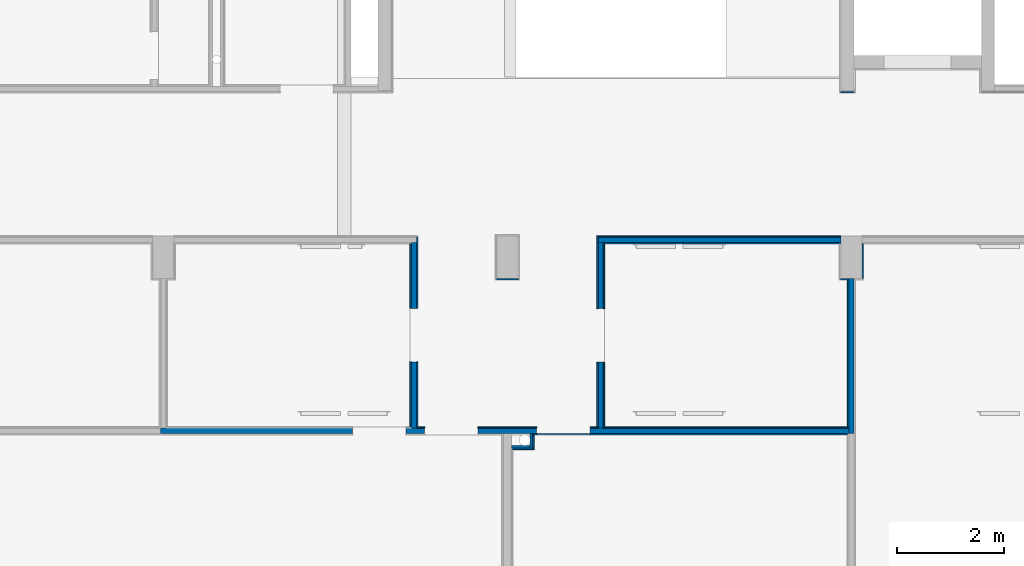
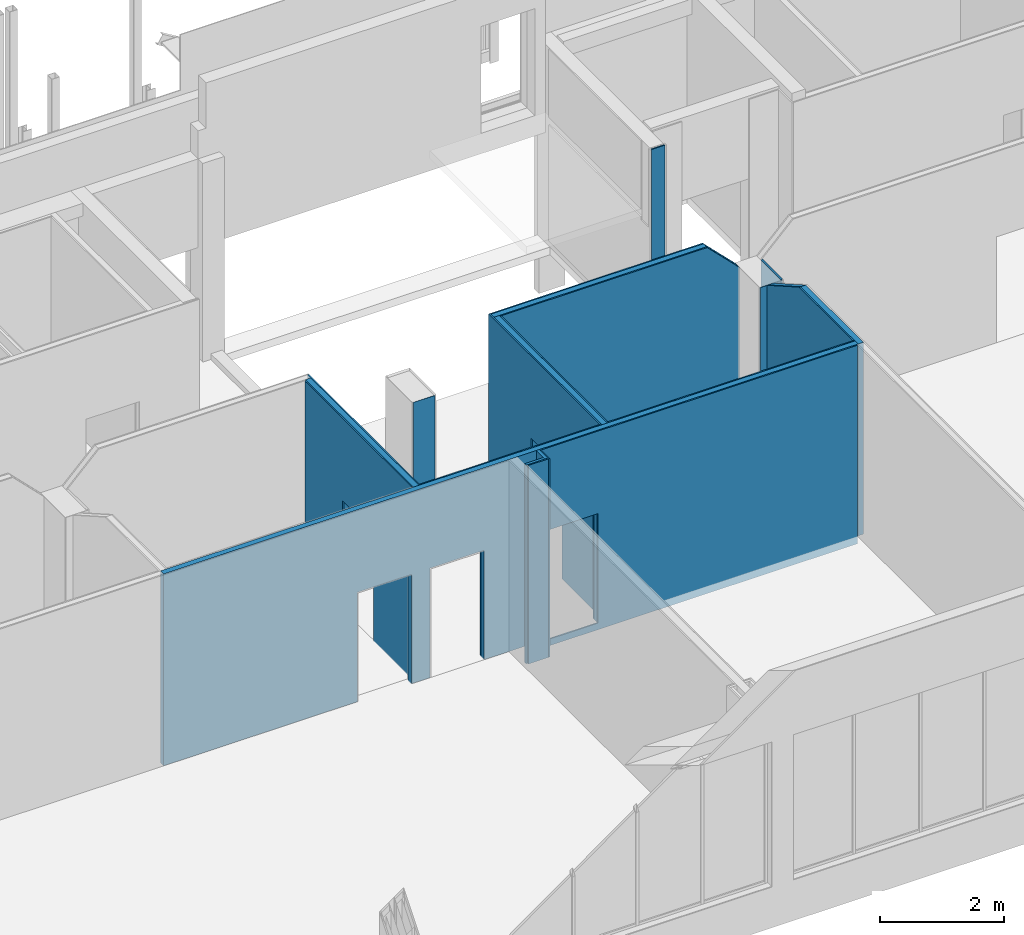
# One storey, part 21 of 29: 23 walls, 12 openings.
"""IFC2X3 building model written with IfcOpenShell, lengths in centimetres."""

from ifc_helpers import new_model, entity, si_unit, converted_unit, derived_unit, direction, frame, frame_2d, origin, origin_2d_with_axis, place, context, subcontext, project, spatial, polyline, rectangle, extrude, clip, bounded_halfspace, material, layer, layer_set, layer_usage, type_object, element, save


model = new_model("IFC2X3")

# Units and contexts
model_context = context("Model", 3, precision=0.001, world=origin(), true_north=direction((6.12303176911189e-17, 1.0)))
body_context = subcontext(model_context, "Body", "Model", "MODEL_VIEW")
ifc_project = project(units=[si_unit("LENGTHUNIT", "METRE", prefix="CENTI"), si_unit("AREAUNIT", "SQUARE_METRE"), si_unit("VOLUMEUNIT", "CUBIC_METRE"), converted_unit("PLANEANGLEUNIT", "DEGREE", entity("IfcRatioMeasure", 0.0174532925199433), si_unit("PLANEANGLEUNIT", "RADIAN"), dimensions=[0, 0, 0, 0, 0, 0, 0]), si_unit("MASSUNIT", "GRAM", prefix="KILO"), derived_unit("MASSDENSITYUNIT", [(si_unit("MASSUNIT", "GRAM", prefix="KILO"), 1), (si_unit("LENGTHUNIT", "METRE"), -3)]), derived_unit("MOMENTOFINERTIAUNIT", [(si_unit("LENGTHUNIT", "METRE"), 4)]), si_unit("TIMEUNIT", "SECOND"), si_unit("FREQUENCYUNIT", "HERTZ"), si_unit("THERMODYNAMICTEMPERATUREUNIT", "DEGREE_CELSIUS"), derived_unit("THERMALTRANSMITTANCEUNIT", [(si_unit("MASSUNIT", "GRAM", prefix="KILO"), 1), (si_unit("THERMODYNAMICTEMPERATUREUNIT", "KELVIN"), -1), (si_unit("TIMEUNIT", "SECOND"), -3)]), derived_unit("VOLUMETRICFLOWRATEUNIT", [(si_unit("LENGTHUNIT", "METRE"), 3), (si_unit("TIMEUNIT", "SECOND"), -1)]), si_unit("ELECTRICCURRENTUNIT", "AMPERE"), si_unit("ELECTRICVOLTAGEUNIT", "VOLT"), si_unit("POWERUNIT", "WATT"), si_unit("FORCEUNIT", "NEWTON", prefix="KILO"), si_unit("ILLUMINANCEUNIT", "LUX"), si_unit("LUMINOUSFLUXUNIT", "LUMEN"), si_unit("LUMINOUSINTENSITYUNIT", "CANDELA"), derived_unit("USERDEFINED", [(si_unit("MASSUNIT", "GRAM", prefix="KILO"), -1), (si_unit("LENGTHUNIT", "METRE"), -2), (si_unit("TIMEUNIT", "SECOND"), 3), (si_unit("LUMINOUSFLUXUNIT", "LUMEN"), 1)]), derived_unit("LINEARVELOCITYUNIT", [(si_unit("LENGTHUNIT", "METRE"), 1), (si_unit("TIMEUNIT", "SECOND"), -1)]), si_unit("PRESSUREUNIT", "PASCAL"), derived_unit("USERDEFINED", [(si_unit("LENGTHUNIT", "METRE"), -2), (si_unit("MASSUNIT", "GRAM", prefix="KILO"), 1), (si_unit("TIMEUNIT", "SECOND"), -2)]), derived_unit("LINEARFORCEUNIT", [(si_unit("MASSUNIT", "GRAM", prefix="KILO"), 1), (si_unit("LENGTHUNIT", "METRE"), 1), (si_unit("TIMEUNIT", "SECOND"), -2), (si_unit("LENGTHUNIT", "METRE"), -1)]), derived_unit("PLANARFORCEUNIT", [(si_unit("MASSUNIT", "GRAM", prefix="KILO"), 1), (si_unit("LENGTHUNIT", "METRE"), 1), (si_unit("TIMEUNIT", "SECOND"), -2), (si_unit("LENGTHUNIT", "METRE"), -2)])], contexts=[model_context])

# Site, building, storey
site_placement = place(None, origin())
site = spatial("IfcSite", under=ifc_project, at=site_placement, Name="Default", CompositionType="ELEMENT")
building_placement = place(site_placement, origin())
building = spatial("IfcBuilding", under=site, at=building_placement, CompositionType="ELEMENT")
storey_placement = place(building_placement, frame((0.0, 0.0, 545.0)))
storey = spatial("IfcBuildingStorey", under=building, at=storey_placement, Name="Poziom 1K +5,45", CompositionType="ELEMENT", Elevation=544.999999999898)

# Wall, opening
ifc_material_1 = material(Name="Wełna skalna")
ifc_layer_1 = layer(ifc_material_1, 10.0)
ifc_layer_set_1 = layer_set([ifc_layer_1], Name="Ściana podstawowa:Ściana GK rdzeń gr. 10cm")
ifc_layer_usage_1 = layer_usage(ifc_layer_set_1, "AXIS2", "POSITIVE", -5.0)
wall_type_1 = type_object("IfcWallType", Name="Ściana podstawowa:Ściana GK rdzeń gr. 10cm", PredefinedType="STANDARD", material=ifc_layer_set_1)
wall_1_placement = place(storey_placement, frame((-1154.26512601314, 1457.62745216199, 13.0), z_axis=(0.0, 0.0, 1.0), x_axis=(0.0, -1.0, 0.0)))
wall_1 = element("IfcWallStandardCase", 1, at=wall_1_placement, inside=storey, type_object=wall_type_1, material=ifc_layer_usage_1, Name="Ściana podstawowa:Ściana GK rdzeń gr. 10cm", ObjectType="Ściana podstawowa:Ściana GK rdzeń gr. 10cm", context=body_context, shape_type="SweptSolid", body=[
    extrude(rectangle(XDim=347.99999996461, YDim=9.99999999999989, at=frame_2d((173.999999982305, 2.66453525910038e-15), x_axis=(-1.0, 0.0))), origin(), (0.0, 0.0, 1.0), 377.000000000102),
])
opening_1_placement = place(wall_1_placement, origin())
element("IfcOpeningElement", 2, at=opening_1_placement, cuts=wall_1, Name="Ściana podstawowa:Ściana GK rdzeń gr. 10cm", ObjectType="Opening", context=body_context, shape_type="SweptSolid", body=[
    extrude(rectangle(XDim=215.0, YDim=100.0, at=frame_2d((0.0, 1.10134124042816e-13), x_axis=(1.0, 0.0))), frame((173.500000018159, -147.4, 107.5), z_axis=(0.0, 1.0, 0.0), x_axis=(0.0, 0.0, -1.0)), (0.0, 0.0, 1.0), 304.8),
])

# Wall, openings
ifc_layer_usage_2 = layer_usage(ifc_layer_set_1, "AXIS2", "NEGATIVE", 5.0)
wall_2_placement = place(storey_placement, frame((-1629.26512060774, 1104.62745219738, 13.0)))
wall_2 = element("IfcWallStandardCase", 3, at=wall_2_placement, inside=storey, type_object=wall_type_1, material=ifc_layer_usage_2, Name="Ściana podstawowa:Ściana GK rdzeń gr. 10cm", ObjectType="Ściana podstawowa:Ściana GK rdzeń gr. 10cm", context=body_context, shape_type="SweptSolid", body=[
    extrude(rectangle(XDim=1289.99999999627, YDim=9.99999999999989, at=frame_2d((644.999999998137, 0.0), x_axis=(-1.0, 0.0))), origin(), (0.0, 0.0, 1.0), 377.000000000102),
])
opening_2_placement = place(wall_2_placement, origin())
element("IfcOpeningElement", 4, at=opening_2_placement, cuts=wall_2, Name="Ściana podstawowa:Ściana GK rdzeń gr. 10cm", ObjectType="Opening", context=body_context, shape_type="SweptSolid", body=[
    extrude(rectangle(XDim=215.0, YDim=100.0, at=origin_2d_with_axis()), frame((755.000008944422, -147.4, 107.5), z_axis=(0.0, 1.0, 0.0), x_axis=(0.0, 0.0, -1.0)), (0.0, 0.0, 1.0), 304.8),
])
opening_3_placement = place(wall_2_placement, origin())
element("IfcOpeningElement", 5, at=opening_3_placement, cuts=wall_2, Name="Ściana podstawowa:Ściana GK rdzeń gr. 10cm", ObjectType="Opening", context=body_context, shape_type="SweptSolid", body=[
    extrude(rectangle(XDim=215.0, YDim=100.0, at=frame_2d((0.0, -1.06581410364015e-13), x_axis=(1.0, 0.0))), frame((545.000008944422, -147.4, 107.5), z_axis=(0.0, 1.0, 0.0), x_axis=(0.0, 0.0, -1.0)), (0.0, 0.0, 1.0), 304.8),
])
opening_4_placement = place(wall_2_placement, origin())
element("IfcOpeningElement", 6, at=opening_4_placement, cuts=wall_2, Name="Ściana podstawowa:Ściana GK rdzeń gr. 10cm", ObjectType="Opening", context=body_context, shape_type="SweptSolid", body=[
    extrude(rectangle(XDim=215.0, YDim=100.0, at=frame_2d((0.0, -1.06581410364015e-13), x_axis=(1.0, 0.0))), frame((409.999994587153, -147.4, 107.5), z_axis=(0.0, 1.0, 0.0), x_axis=(0.0, 0.0, -1.0)), (0.0, 0.0, 1.0), 304.8),
])

# Walls
ifc_layer_usage_3 = layer_usage(ifc_layer_set_1, "AXIS2", "NEGATIVE", 5.0)
wall_3_placement = place(storey_placement, frame((-334.26512061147, 1099.62745219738, 13.0), z_axis=(0.0, 0.0, 1.0), x_axis=(0.0, 1.0, 0.0)))
element("IfcWallStandardCase", 7, at=wall_3_placement, inside=storey, type_object=wall_type_1, material=ifc_layer_usage_3, Name="Ściana podstawowa:Ściana GK rdzeń gr. 10cm", ObjectType="Ściana podstawowa:Ściana GK rdzeń gr. 10cm", context=body_context, shape_type="Clipping", body=[
    clip(extrude(rectangle(XDim=290.499999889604, YDim=10.0, at=frame_2d((145.249999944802, 8.43769498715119e-15), x_axis=(-1.0, 0.0))), origin(), (0.0, 0.0, 1.0), 377.000000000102), bounded_halfspace(frame((185.499999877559, -5.0, 377.0), z_axis=(-0.496138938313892, 0.0, -0.868243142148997), x_axis=(0.0, -1.0, 0.0)), True, frame((185.499999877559, -5.0, 377.0), z_axis=(-0.496138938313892, 0.0, -0.868243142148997), x_axis=(0.0, -1.0, 0.0)), polyline([(0.0, 0.0), (-10.0, 0.0), (-10.0, -120.933866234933), (0.0, -120.933866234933), (0.0, 0.0)]))),
])
ifc_layer_usage_4 = layer_usage(ifc_layer_set_1, "AXIS2", "POSITIVE", -5.0)
wall_4_placement = place(storey_placement, frame((-354.265109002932, 1462.62745216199, 13.0), z_axis=(0.0, 0.0, 1.0), x_axis=(-1.0, 0.0, 0.0)))
element("IfcWallStandardCase", 8, at=wall_4_placement, inside=storey, type_object=wall_type_1, material=ifc_layer_usage_4, Name="Ściana podstawowa:Ściana GK rdzeń gr. 10cm", ObjectType="Ściana podstawowa:Ściana GK rdzeń gr. 10cm", context=body_context, shape_type="Clipping", body=[
    clip(extrude(rectangle(XDim=455.000006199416, YDim=9.99999999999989, at=frame_2d((227.500003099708, 0.0), x_axis=(-1.0, 0.0))), origin(), (0.0, 0.0, 1.0), 377.000000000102), bounded_halfspace(frame((0.0, -5.0, 317.0), z_axis=(0.707106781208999, 0.0, -0.707106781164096), x_axis=(0.0, 1.0, 0.0)), True, frame((0.0, -5.0, 317.0), z_axis=(0.707106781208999, 0.0, -0.707106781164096), x_axis=(0.0, 1.0, 0.0)), polyline([(0.0, 0.0), (10.0, 0.0), (10.0, 84.8528137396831), (0.0, 84.8528137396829), (0.0, 0.0)]))),
])

# Wall, opening
ifc_layer_usage_5 = layer_usage(ifc_layer_set_1, "AXIS2", "NEGATIVE", 5.0)
wall_5_placement = place(storey_placement, frame((-804.265115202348, 1457.62745216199, 13.0), z_axis=(0.0, 0.0, 1.0), x_axis=(0.0, -1.0, 0.0)))
wall_5 = element("IfcWallStandardCase", 9, at=wall_5_placement, inside=storey, type_object=wall_type_1, material=ifc_layer_usage_5, Name="Ściana podstawowa:Ściana GK rdzeń gr. 10cm", ObjectType="Ściana podstawowa:Ściana GK rdzeń gr. 10cm", context=body_context, shape_type="SweptSolid", body=[
    extrude(rectangle(XDim=347.999999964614, YDim=9.99999999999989, at=frame_2d((173.999999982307, 0.0), x_axis=(-1.0, 0.0))), origin(), (0.0, 0.0, 1.0), 377.000000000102),
])
opening_5_placement = place(wall_5_placement, origin())
element("IfcOpeningElement", 10, at=opening_5_placement, cuts=wall_5, Name="Ściana podstawowa:Ściana GK rdzeń gr. 10cm", ObjectType="Opening", context=body_context, shape_type="SweptSolid", body=[
    extrude(rectangle(XDim=215.0, YDim=100.0, at=frame_2d((1.10134124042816e-13, 0.0), x_axis=(0.0, 1.0))), frame((174.0, -157.4, 107.5), z_axis=(0.0, 1.0, 0.0), x_axis=(1.0, 0.0, 0.0)), (0.0, 0.0, 1.0), 304.8),
])

# Walls
ifc_layer_2 = layer(ifc_material_1, 5.0)
ifc_layer_set_2 = layer_set([ifc_layer_2], Name="Ściana podstawowa:Ściana GK rdzeń gr. 5cm")
ifc_layer_usage_6 = layer_usage(ifc_layer_set_2, "AXIS2", "NEGATIVE", 2.5)
wall_type_2 = type_object("IfcWallType", Name="Ściana podstawowa:Ściana GK rdzeń gr. 5cm", PredefinedType="STANDARD", material=ifc_layer_set_2)
wall_6_placement = place(storey_placement, frame((-971.765108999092, 1074.62745218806, 0.0)))
element("IfcWallStandardCase", 11, at=wall_6_placement, inside=storey, type_object=wall_type_2, material=ifc_layer_usage_6, Name="Ściana podstawowa:Ściana GK rdzeń gr. 5cm", ObjectType="Ściana podstawowa:Ściana GK rdzeń gr. 5cm", context=body_context, shape_type="SweptSolid", body=[
    extrude(rectangle(XDim=34.9999938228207, YDim=5.00000000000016, at=frame_2d((17.4999969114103, 0.0), x_axis=(-1.0, 0.0))), origin(), (0.0, 0.0, 1.0), 390.000000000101),
])
ifc_layer_usage_7 = layer_usage(ifc_layer_set_2, "AXIS2", "NEGATIVE", 2.5)
wall_7_placement = place(storey_placement, frame((-934.265115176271, 1072.12745218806, 0.0), z_axis=(0.0, 0.0, 1.0), x_axis=(0.0, 1.0, 0.0)))
element("IfcWallStandardCase", 12, at=wall_7_placement, inside=storey, type_object=wall_type_2, material=ifc_layer_usage_7, Name="Ściana podstawowa:Ściana GK rdzeń gr. 5cm", ObjectType="Ściana podstawowa:Ściana GK rdzeń gr. 5cm", context=body_context, shape_type="SweptSolid", body=[
    extrude(rectangle(XDim=27.5000000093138, YDim=4.99999999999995, at=frame_2d((13.7500000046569, 0.0), x_axis=(-1.0, 0.0))), origin(), (0.0, 0.0, 1.0), 390.000000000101),
])

# Wall, opening
ifc_material_2 = material(Name="Tynk gipsowy")
ifc_layer_3 = layer(ifc_material_2, 2.5)
ifc_layer_set_3 = layer_set([ifc_layer_3], Name="Ściana podstawowa:Ściana GK wykonczenie gr. 2,5cm")
ifc_layer_usage_8 = layer_usage(ifc_layer_set_3, "AXIS2", "NEGATIVE", 1.25)
wall_type_3 = type_object("IfcWallType", Name="Ściana podstawowa:Ściana GK wykonczenie gr. 2,5cm", PredefinedType="STANDARD", material=ifc_layer_set_3)
wall_8_placement = place(storey_placement, frame((-1148.01512601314, 1467.62745216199, 13.0), z_axis=(0.0, 0.0, 1.0), x_axis=(0.0, -1.0, 0.0)))
wall_8 = element("IfcWallStandardCase", 13, at=wall_8_placement, inside=storey, type_object=wall_type_3, material=ifc_layer_usage_8, Name="Ściana podstawowa:Ściana GK wykonczenie gr. 2,5cm", ObjectType="Ściana podstawowa:Ściana GK wykonczenie gr. 2,5cm", context=body_context, shape_type="SweptSolid", body=[
    extrude(rectangle(XDim=357.99999996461, YDim=2.49999999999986, at=frame_2d((178.999999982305, 0.0), x_axis=(-1.0, 0.0))), origin(), (0.0, 0.0, 1.0), 377.000000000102),
])
opening_6_placement = place(wall_8_placement, origin())
element("IfcOpeningElement", 14, at=opening_6_placement, cuts=wall_8, Name="Ściana podstawowa:Ściana GK wykonczenie gr. 2,5cm", ObjectType="Opening", context=body_context, shape_type="SweptSolid", body=[
    extrude(rectangle(XDim=215.0, YDim=100.0, at=frame_2d((0.0, 1.10134124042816e-13), x_axis=(1.0, 0.0))), frame((183.500000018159, -153.650000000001, 107.5), z_axis=(0.0, 1.0, 0.0), x_axis=(0.0, 0.0, -1.0)), (0.0, 0.0, 1.0), 304.8),
])

# Wall, openings
ifc_layer_usage_9 = layer_usage(ifc_layer_set_3, "AXIS2", "NEGATIVE", 1.25)
wall_9_placement = place(storey_placement, frame((-1146.76512601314, 1110.87745211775, 13.0)))
wall_9 = element("IfcWallStandardCase", 15, at=wall_9_placement, inside=storey, type_object=wall_type_3, material=ifc_layer_usage_9, Name="Ściana podstawowa:Ściana GK wykonczenie gr. 2,5cm", ObjectType="Ściana podstawowa:Ściana GK wykonczenie gr. 2,5cm", context=body_context, shape_type="SweptSolid", body=[
    extrude(rectangle(XDim=337.500010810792, YDim=2.49999999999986, at=frame_2d((168.750005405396, 0.0), x_axis=(-1.0, 0.0))), origin(), (0.0, 0.0, 1.0), 377.000000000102),
])
opening_7_placement = place(wall_9_placement, origin())
element("IfcOpeningElement", 16, at=opening_7_placement, cuts=wall_9, Name="Ściana podstawowa:Ściana GK wykonczenie gr. 2,5cm", ObjectType="Opening", context=body_context, shape_type="SweptSolid", body=[
    extrude(rectangle(XDim=215.0, YDim=100.0, at=origin_2d_with_axis()), frame((272.500014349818, -153.649999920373, 107.5), z_axis=(0.0, 1.0, 0.0), x_axis=(0.0, 0.0, -1.0)), (0.0, 0.0, 1.0), 304.8),
])
opening_8_placement = place(wall_9_placement, origin())
element("IfcOpeningElement", 17, at=opening_8_placement, cuts=wall_9, Name="Ściana podstawowa:Ściana GK wykonczenie gr. 2,5cm", ObjectType="Opening", context=body_context, shape_type="SweptSolid", body=[
    extrude(rectangle(XDim=215.0, YDim=100.0, at=frame_2d((0.0, -1.06581410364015e-13), x_axis=(1.0, 0.0))), frame((62.5000143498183, -153.649999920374, 107.5), z_axis=(0.0, 1.0, 0.0), x_axis=(0.0, 0.0, -1.0)), (0.0, 0.0, 1.0), 304.8),
])

# Wall, opening
ifc_layer_usage_10 = layer_usage(ifc_layer_set_3, "AXIS2", "NEGATIVE", 1.25)
wall_10_placement = place(storey_placement, frame((-810.515115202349, 1112.12745211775, 13.0), z_axis=(0.0, 0.0, 1.0), x_axis=(0.0, 1.0, 0.0)))
wall_10 = element("IfcWallStandardCase", 18, at=wall_10_placement, inside=storey, type_object=wall_type_3, material=ifc_layer_usage_10, Name="Ściana podstawowa:Ściana GK wykonczenie gr. 2,5cm", ObjectType="Ściana podstawowa:Ściana GK wykonczenie gr. 2,5cm", context=body_context, shape_type="SweptSolid", body=[
    extrude(rectangle(XDim=358.000013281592, YDim=2.50000000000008, at=frame_2d((179.000006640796, 0.0), x_axis=(-1.0, 0.0))), origin(), (0.0, 0.0, 1.0), 377.000000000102),
])
opening_9_placement = place(wall_10_placement, origin())
element("IfcOpeningElement", 19, at=opening_9_placement, cuts=wall_10, Name="Ściana podstawowa:Ściana GK wykonczenie gr. 2,5cm", ObjectType="Opening", context=body_context, shape_type="SweptSolid", body=[
    extrude(rectangle(XDim=215.0, YDim=100.0, at=frame_2d((0.0, -1.10134124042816e-13), x_axis=(1.0, 0.0))), frame((171.500000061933, -153.65, 107.5), z_axis=(0.0, 1.0, 0.0), x_axis=(0.0, 0.0, -1.0)), (0.0, 0.0, 1.0), 304.8),
])

# Wall
ifc_layer_usage_11 = layer_usage(ifc_layer_set_3, "AXIS2", "NEGATIVE", 1.25)
wall_11_placement = place(storey_placement, frame((-809.265115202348, 1468.87746539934, 13.0)))
element("IfcWallStandardCase", 20, at=wall_11_placement, inside=storey, type_object=wall_type_3, material=ifc_layer_usage_11, Name="Ściana podstawowa:Ściana GK wykonczenie gr. 2,5cm", ObjectType="Ściana podstawowa:Ściana GK wykonczenie gr. 2,5cm", context=body_context, shape_type="Clipping", body=[
    clip(extrude(rectangle(XDim=455.000003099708, YDim=2.49999999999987, at=frame_2d((227.500001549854, 1.33226762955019e-15), x_axis=(-1.0, 0.0))), origin(), (0.0, 0.0, 1.0), 377.000000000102), bounded_halfspace(frame((395.000006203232, -1.25000000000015, 377.0), z_axis=(-0.707106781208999, 0.0, -0.707106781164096), x_axis=(0.0, -1.0, 0.0)), True, frame((395.000006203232, -1.25000000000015, 377.0), z_axis=(-0.707106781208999, 0.0, -0.707106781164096), x_axis=(0.0, -1.0, 0.0)), polyline([(0.0, 0.0), (-2.50000000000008, 0.0), (-2.49999999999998, -84.8528049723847), (0.0, -84.8528093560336), (0.0, 0.0)]))),
])

# Wall, opening
ifc_layer_usage_12 = layer_usage(ifc_layer_set_3, "AXIS2", "NEGATIVE", 1.25)
wall_12_placement = place(storey_placement, frame((-1160.51512601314, 1455.12745216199, 13.0), z_axis=(0.0, 0.0, 1.0), x_axis=(0.0, -1.0, 0.0)))
wall_12 = element("IfcWallStandardCase", 21, at=wall_12_placement, inside=storey, type_object=wall_type_3, material=ifc_layer_usage_12, Name="Ściana podstawowa:Ściana GK wykonczenie gr. 2,5cm", ObjectType="Ściana podstawowa:Ściana GK wykonczenie gr. 2,5cm", context=body_context, shape_type="SweptSolid", body=[
    extrude(rectangle(XDim=342.99999996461, YDim=2.49999999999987, at=frame_2d((171.499999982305, -4.55191440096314e-15), x_axis=(-1.0, 0.0))), origin(), (0.0, 0.0, 1.0), 377.000000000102),
])
opening_10_placement = place(wall_12_placement, origin())
element("IfcOpeningElement", 22, at=opening_10_placement, cuts=wall_12, Name="Ściana podstawowa:Ściana GK wykonczenie gr. 2,5cm", ObjectType="Opening", context=body_context, shape_type="SweptSolid", body=[
    extrude(rectangle(XDim=215.0, YDim=100.0, at=frame_2d((0.0, 1.10134124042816e-13), x_axis=(1.0, 0.0))), frame((171.0, -141.15, 107.5), z_axis=(0.0, 1.0, 0.0), x_axis=(0.0, 0.0, -1.0)), (0.0, 0.0, 1.0), 304.8),
])

ifc_layer_usage_13 = layer_usage(ifc_layer_set_3, "AXIS2", "NEGATIVE", 1.25)
wall_13_placement = place(storey_placement, frame((-798.015115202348, 1112.12745219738, 13.0), z_axis=(0.0, 0.0, 1.0), x_axis=(0.0, 1.0, 0.0)))
wall_13 = element("IfcWallStandardCase", 23, at=wall_13_placement, inside=storey, type_object=wall_type_3, material=ifc_layer_usage_13, Name="Ściana podstawowa:Ściana GK wykonczenie gr. 2,5cm", ObjectType="Ściana podstawowa:Ściana GK wykonczenie gr. 2,5cm", context=body_context, shape_type="SweptSolid", body=[
    extrude(rectangle(XDim=342.999999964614, YDim=2.50000000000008, at=frame_2d((171.499999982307, -3.88578058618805e-15), x_axis=(-1.0, 0.0))), origin(), (0.0, 0.0, 1.0), 377.000000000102),
])
opening_11_placement = place(wall_13_placement, origin())
element("IfcOpeningElement", 24, at=opening_11_placement, cuts=wall_13, Name="Ściana podstawowa:Ściana GK wykonczenie gr. 2,5cm", ObjectType="Opening", context=body_context, shape_type="SweptSolid", body=[
    extrude(rectangle(XDim=215.0, YDim=100.0, at=frame_2d((0.0, -1.10134124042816e-13), x_axis=(1.0, 0.0))), frame((171.499999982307, -141.15, 107.5), z_axis=(0.0, 1.0, 0.0), x_axis=(0.0, 0.0, -1.0)), (0.0, 0.0, 1.0), 304.8),
])

# Walls
ifc_layer_usage_14 = layer_usage(ifc_layer_set_3, "AXIS2", "NEGATIVE", 1.25)
wall_14_placement = place(storey_placement, frame((-799.265115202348, 1456.37745216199, 13.0)))
element("IfcWallStandardCase", 25, at=wall_14_placement, inside=storey, type_object=wall_type_3, material=ifc_layer_usage_14, Name="Ściana podstawowa:Ściana GK wykonczenie gr. 2,5cm", ObjectType="Ściana podstawowa:Ściana GK wykonczenie gr. 2,5cm", context=body_context, shape_type="Clipping", body=[
    clip(extrude(rectangle(XDim=445.000006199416, YDim=2.49999999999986, at=frame_2d((222.500003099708, 0.0), x_axis=(-1.0, 0.0))), origin(), (0.0, 0.0, 1.0), 377.000000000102), bounded_halfspace(frame((385.000006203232, -1.25000000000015, 377.0), z_axis=(-0.707106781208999, 0.0, -0.707106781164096), x_axis=(0.0, -1.0, 0.0)), True, frame((385.000006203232, -1.25000000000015, 377.0), z_axis=(-0.707106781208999, 0.0, -0.707106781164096), x_axis=(0.0, -1.0, 0.0)), polyline([(0.0, 0.0), (-2.50000000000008, 0.0), (-2.49999999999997, -84.8528137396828), (0.0, -84.8528137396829), (0.0, 0.0)]))),
])
ifc_layer_usage_15 = layer_usage(ifc_layer_set_3, "AXIS2", "NEGATIVE", 1.25)
wall_15_placement = place(storey_placement, frame((-354.265109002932, 1388.87745208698, 13.0)))
element("IfcWallStandardCase", 26, at=wall_15_placement, inside=storey, type_object=wall_type_3, material=ifc_layer_usage_15, Name="Ściana podstawowa:Ściana GK wykonczenie gr. 2,5cm", ObjectType="Ściana podstawowa:Ściana GK wykonczenie gr. 2,5cm", context=body_context, shape_type="Clipping", body=[
    clip(extrude(rectangle(XDim=14.9999883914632, YDim=2.49999999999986, at=frame_2d((7.49999419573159, 0.0), x_axis=(-1.0, 0.0))), origin(), (0.0, 0.0, 1.0), 318.428571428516), bounded_halfspace(frame((0.0, -1.25000000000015, 318.428571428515), z_axis=(0.0, -0.496138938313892, -0.868243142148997), x_axis=(1.0, 0.0, 0.0)), True, frame((0.0, -1.25000000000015, 318.428571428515), z_axis=(0.0, -0.496138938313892, -0.868243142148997), x_axis=(1.0, 0.0, 0.0)), polyline([(0.0, 0.0), (0.0, -2.87937776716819), (14.9999883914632, -2.87937776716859), (14.9999883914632, 0.0), (12.4999883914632, 0.0), (0.0, 0.0)]))),
])
ifc_layer_usage_16 = layer_usage(ifc_layer_set_3, "AXIS2", "NEGATIVE", 1.25)
wall_16_placement = place(storey_placement, frame((-340.515120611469, 1387.62745208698, 13.0), z_axis=(0.0, 0.0, 1.0), x_axis=(0.0, -1.0, 0.0)))
element("IfcWallStandardCase", 27, at=wall_16_placement, inside=storey, type_object=wall_type_3, material=ifc_layer_usage_16, Name="Ściana podstawowa:Ściana GK wykonczenie gr. 2,5cm", ObjectType="Ściana podstawowa:Ściana GK wykonczenie gr. 2,5cm", context=body_context, shape_type="Clipping", body=[
    clip(extrude(rectangle(XDim=275.499999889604, YDim=2.49999999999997, at=frame_2d((137.749999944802, -3.88578058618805e-15), x_axis=(-1.0, 0.0))), origin(), (0.0, 0.0, 1.0), 377.000000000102), bounded_halfspace(frame((0.0, -1.24999999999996, 318.428571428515), z_axis=(0.496138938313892, 0.0, -0.868243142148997), x_axis=(0.0, 1.0, 0.0)), True, frame((0.0, -1.24999999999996, 318.428571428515), z_axis=(0.496138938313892, 0.0, -0.868243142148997), x_axis=(0.0, 1.0, 0.0)), polyline([(0.0, 0.0), (2.49999999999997, 0.0), (2.49999999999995, 118.054488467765), (0.0, 118.054488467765), (0.0, 0.0)]))),
])
ifc_layer_usage_17 = layer_usage(ifc_layer_set_3, "AXIS2", "NEGATIVE", 1.25)
wall_17_placement = place(storey_placement, frame((-339.26512061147, 1110.87745219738, 13.0), z_axis=(0.0, 0.0, 1.0), x_axis=(-1.0, 0.0, 0.0)))
element("IfcWallStandardCase", 28, at=wall_17_placement, inside=storey, type_object=wall_type_3, material=ifc_layer_usage_17, Name="Ściana podstawowa:Ściana GK wykonczenie gr. 2,5cm", ObjectType="Ściana podstawowa:Ściana GK wykonczenie gr. 2,5cm", context=body_context, shape_type="SweptSolid", body=[
    extrude(rectangle(XDim=459.999994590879, YDim=2.49999999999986, at=frame_2d((229.999997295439, 0.0), x_axis=(-1.0, 0.0))), origin(), (0.0, 0.0, 1.0), 377.000000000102),
])
ifc_layer_usage_18 = layer_usage(ifc_layer_set_3, "AXIS2", "NEGATIVE", 1.25)
wall_18_placement = place(storey_placement, frame((-313.015120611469, 1455.12745208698, 0.0), z_axis=(0.0, 0.0, 1.0), x_axis=(0.0, -1.0, 0.0)))
element("IfcWallStandardCase", 29, at=wall_18_placement, inside=storey, type_object=wall_type_3, material=ifc_layer_usage_18, Name="Ściana podstawowa:Ściana GK wykonczenie gr. 2,5cm", ObjectType="Ściana podstawowa:Ściana GK wykonczenie gr. 2,5cm", context=body_context, shape_type="Clipping", body=[
    clip(extrude(rectangle(XDim=64.9999999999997, YDim=2.49999999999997, at=frame_2d((32.4999999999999, 0.0), x_axis=(-1.0, 0.0))), origin(), (0.0, 0.0, 1.0), 332.49998840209), bounded_halfspace(frame((0.0, -1.25000000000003, 329.999988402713), z_axis=(0.0, 0.707106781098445, -0.707106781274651), x_axis=(-1.0, 0.0, 0.0)), True, frame((0.0, -1.25000000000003, 329.999988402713), z_axis=(0.0, 0.707106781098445, -0.707106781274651), x_axis=(-1.0, 0.0, 0.0)), polyline([(0.0, 0.0), (0.0, 3.5355339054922), (-65.0, 3.53553390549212), (-65.0, 0.0), (0.0, 0.0)]))),
])

# Wall, opening
ifc_layer_usage_19 = layer_usage(ifc_layer_set_3, "AXIS2", "NEGATIVE", 1.25)
wall_19_placement = place(storey_placement, frame((-341.765120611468, 1098.37745211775, 0.0), z_axis=(0.0, 0.0, 1.0), x_axis=(-1.0, 0.0, 0.0)))
wall_19 = element("IfcWallStandardCase", 30, at=wall_19_placement, inside=storey, type_object=wall_type_3, material=ifc_layer_usage_19, Name="Ściana podstawowa:Ściana GK wykonczenie gr. 2,5cm", ObjectType="Ściana podstawowa:Ściana GK wykonczenie gr. 2,5cm", context=body_context, shape_type="SweptSolid", body=[
    extrude(rectangle(XDim=589.999994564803, YDim=2.49999999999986, at=frame_2d((294.999997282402, 0.0), x_axis=(-1.0, 0.0))), origin(), (0.0, 0.0, 1.0), 390.000000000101),
])
opening_12_placement = place(wall_19_placement, origin())
element("IfcOpeningElement", 31, at=opening_12_placement, cuts=wall_19, Name="Ściana podstawowa:Ściana GK wykonczenie gr. 2,5cm", ObjectType="Opening", context=body_context, shape_type="SweptSolid", body=[
    extrude(rectangle(XDim=215.0, YDim=100.0, at=frame_2d((1.10134124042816e-13, 0.0), x_axis=(0.0, 1.0))), frame((532.499991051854, -163.650000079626, 120.5), z_axis=(0.0, 1.0, 0.0), x_axis=(1.0, 0.0, 0.0)), (0.0, 0.0, 1.0), 304.8),
])

# Walls
ifc_layer_usage_20 = layer_usage(ifc_layer_set_3, "AXIS2", "NEGATIVE", 1.25)
wall_20_placement = place(storey_placement, frame((-930.515115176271, 1097.12745211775, 0.0), z_axis=(0.0, 0.0, 1.0), x_axis=(0.0, -1.0, 0.0)))
element("IfcWallStandardCase", 32, at=wall_20_placement, inside=storey, type_object=wall_type_3, material=ifc_layer_usage_20, Name="Ściana podstawowa:Ściana GK wykonczenie gr. 2,5cm", ObjectType="Ściana podstawowa:Ściana GK wykonczenie gr. 2,5cm", context=body_context, shape_type="SweptSolid", body=[
    extrude(rectangle(XDim=27.4999999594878, YDim=2.50000000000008, at=frame_2d((13.7499999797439, 0.0), x_axis=(-1.0, 0.0))), origin(), (0.0, 0.0, 1.0), 390.000000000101),
])
ifc_layer_usage_21 = layer_usage(ifc_layer_set_3, "AXIS2", "NEGATIVE", 1.25)
wall_21_placement = place(storey_placement, frame((-931.765115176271, 1070.87745215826, 0.0), z_axis=(0.0, 0.0, 1.0), x_axis=(-1.0, 0.0, 0.0)))
element("IfcWallStandardCase", 33, at=wall_21_placement, inside=storey, type_object=wall_type_3, material=ifc_layer_usage_21, Name="Ściana podstawowa:Ściana GK wykonczenie gr. 2,5cm", ObjectType="Ściana podstawowa:Ściana GK wykonczenie gr. 2,5cm", context=body_context, shape_type="SweptSolid", body=[
    extrude(rectangle(XDim=37.5000054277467, YDim=2.49999999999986, at=frame_2d((18.7500027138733, 0.0), x_axis=(-1.0, 0.0))), origin(), (0.0, 0.0, 1.0), 390.000000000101),
])
ifc_layer_4 = layer(ifc_material_2, 2.5)
ifc_layer_set_4 = layer_set([ifc_layer_4], Name="Ściana podstawowa:Tynk wykończenie gr. 2,5cm")
ifc_layer_usage_22 = layer_usage(ifc_layer_set_4, "AXIS2", "NEGATIVE", 1.25)
wall_type_4 = type_object("IfcWallType", Name="Ściana podstawowa:Tynk wykończenie gr. 2,5cm", PredefinedType="STANDARD", material=ifc_layer_set_4)
wall_22_placement = place(storey_placement, frame((-354.265111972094, 1739.37745205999, 13.0)))
element("IfcWallStandardCase", 34, at=wall_22_placement, inside=storey, type_object=wall_type_4, material=ifc_layer_usage_22, Name="Ściana podstawowa:Tynk wykończenie gr. 2,5cm", ObjectType="Ściana podstawowa:Tynk wykończenie gr. 2,5cm", context=body_context, shape_type="SweptSolid", body=[
    extrude(rectangle(XDim=25.0000000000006, YDim=2.49999999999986, at=frame_2d((12.5000000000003, 0.0), x_axis=(-1.0, 0.0))), origin(), (0.0, 0.0, 1.0), 377.000000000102),
])
ifc_layer_usage_23 = layer_usage(ifc_layer_set_4, "AXIS2", "NEGATIVE", 1.25)
wall_23_placement = place(storey_placement, frame((-999.265109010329, 1388.87745208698, 0.0)))
element("IfcWallStandardCase", 35, at=wall_23_placement, inside=storey, type_object=wall_type_4, material=ifc_layer_usage_23, Name="Ściana podstawowa:Tynk wykończenie gr. 2,5cm", ObjectType="Ściana podstawowa:Tynk wykończenie gr. 2,5cm", context=body_context, shape_type="Clipping", body=[
    clip(extrude(rectangle(XDim=40.0011133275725, YDim=2.49999999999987, at=frame_2d((20.0005566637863, -1.19904086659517e-14), x_axis=(-1.0, 0.0))), origin(), (0.0, 0.0, 1.0), 331.428571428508), bounded_halfspace(frame((0.0, -1.25000000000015, 331.428571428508), z_axis=(0.0, -0.496138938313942, -0.868243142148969), x_axis=(1.0, 0.0, 0.0)), True, frame((0.0, -1.25000000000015, 331.428571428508), z_axis=(0.0, -0.496138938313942, -0.868243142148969), x_axis=(1.0, 0.0, 0.0)), polyline([(0.0, 0.0), (0.0, -2.87937776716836), (40.0011133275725, -2.87937776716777), (40.0011133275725, 0.0), (0.0, 0.0)]))),
])

save(model, "model.ifc")
